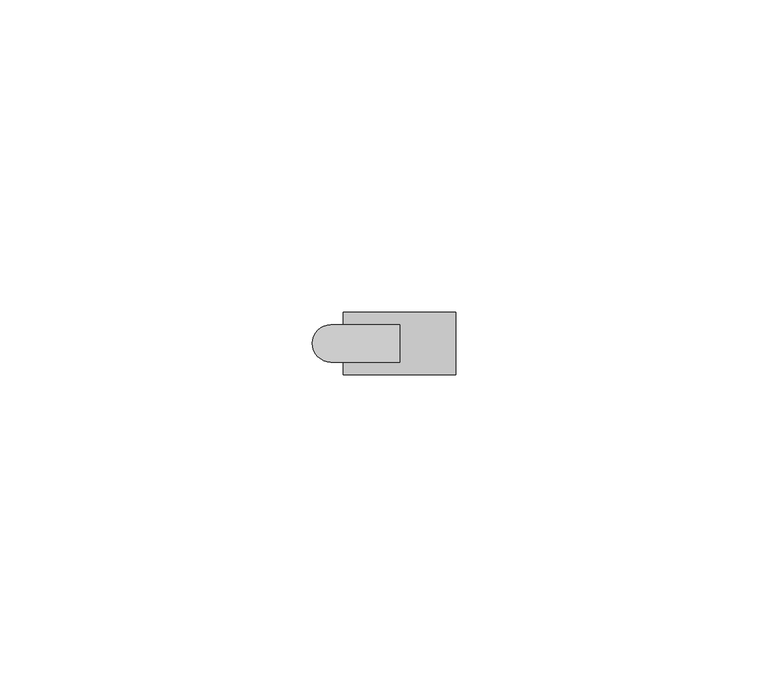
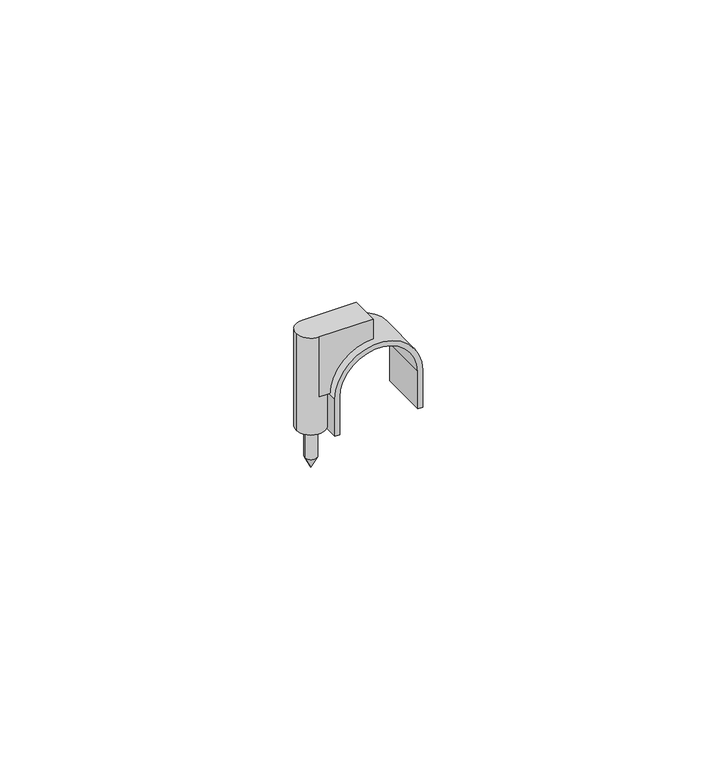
"""IFC4 building model written with IfcOpenShell, lengths in millimetres: cable carrier fitting geometry, КНС_СкобаПластиковаяСГвоздем_DKC : д.15 - 16мм."""

from ifc_helpers import new_model, si_unit, point, frame, frame_2d, origin, place, context, project, spatial, polyline, circle_curve, trimmed, segment, composite_curve, outline, extrude, source, transform, mapped, element, save
from ifc_brep_helpers import plane_surface, cylinder_surface, revolved_surface, advanced_brep


def cable_carrier_fitting_16f909ff(model_context):
    return source(origin(), model_context, "Body", "SolidModel", [
        advanced_brep(
        [(-9.75, 0.0, 0.0), (-12.25, 0.0, 0.0), (-11.0, 0.0, 0.0), (-9.75, 0.0, -6.5), (-12.25, 0.0, -6.5), (-11.0, 0.0, -9.0)],
        [
            (0, 1, circle_curve(frame((-11.0, 0.0, 0.0), z_axis=(0.0, 0.0, 1.0), x_axis=(-1.0, 0.0, 0.0)), 1.25)),
            (1, 2),
            (2, 0),
            (1, 0, circle_curve(frame((-11.0, 0.0, 0.0), z_axis=(0.0, 0.0, 1.0), x_axis=(-1.0, 0.0, 0.0)), 1.25)),
            (3, 4, circle_curve(frame((-11.0, 0.0, -6.5), z_axis=(0.0, 0.0, 1.0), x_axis=(-1.0, 0.0, 0.0)), 1.25)),
            (4, 1),
            (0, 3),
            (4, 3, circle_curve(frame((-11.0, 0.0, -6.5), z_axis=(0.0, 0.0, 1.0), x_axis=(-1.0, 0.0, 0.0)), 1.25)),
            (5, 4),
            (3, 5),
        ],
        [
            plane_surface(frame((-11.0, 0.0, 0.0), z_axis=(0.0, 0.0, 1.0), x_axis=(-1.0, 0.0, 0.0))),
            cylinder_surface(frame((-11.0, 0.0, 32.2919306), z_axis=(0.0, 0.0, -1.0), x_axis=(-1.0, 0.0, 0.0)), 1.25),
            revolved_surface(polyline([(-12.25, 0.0, -6.5), (-11.0, 0.0, -9.0)]), (-11.0, 0.0, 32.2919306), (0.0, 0.0, -1.0)),
        ],
        [
            (0, [[1, 2, 3]]),
            (0, [[4, -3, -2]]),
            (1, [[5, 6, -1, 7]]),
            (1, [[8, -7, -4, -6]]),
            (2, [[9, -5, 10]]),
            (2, [[-10, -8, -9]]),
        ],
    ),
        advanced_brep(
        [(-8.0, -3.0, 8.0), (0.0, -3.0, 16.0), (0.0, -3.0, 21.0), (-11.0, -3.0, 21.0), (-11.0, -3.0, 8.0), (-8.0, 3.0, 8.0), (-11.0, 3.0, 8.0), (-11.0, 3.0, 21.0), (0.0, 3.0, 21.0), (0.0, 3.0, 16.0), (-8.0, 0.0, 8.0), (-14.0, 0.0, 21.0), (-8.0, 0.0, 0.0), (-14.0, 0.0, 0.0), (-11.0, 0.0, 0.0)],
        [
            (0, 1, circle_curve(frame((0.0, -3.0, 8.0), z_axis=(0.0, 1.0, 0.0), x_axis=(1.0, 0.0, 0.0)), 8.0)),
            (1, 2),
            (2, 3),
            (3, 4),
            (4, 0),
            (5, 6),
            (6, 7),
            (7, 8),
            (8, 9),
            (9, 5, circle_curve(frame((0.0, 3.0, 8.0), z_axis=(0.0, -1.0, 0.0), x_axis=(1.0, 0.0, 0.0)), 8.0)),
            (0, 10),
            (10, 5),
            (9, 1),
            (8, 2),
            (7, 11, circle_curve(frame((-11.0, 0.0, 21.0), z_axis=(0.0, 0.0, 1.0), x_axis=(-1.0, 0.0, 0.0)), 3.0)),
            (11, 3, circle_curve(frame((-11.0, 0.0, 21.0), z_axis=(0.0, 0.0, 1.0), x_axis=(-1.0, 0.0, 0.0)), 3.0)),
            (4, 10, circle_curve(frame((-11.0, 0.0, 8.0), z_axis=(0.0, 0.0, 1.0), x_axis=(-1.0, 0.0, 0.0)), 3.0)),
            (10, 6, circle_curve(frame((-11.0, 0.0, 8.0), z_axis=(0.0, 0.0, 1.0), x_axis=(-1.0, 0.0, 0.0)), 3.0)),
            (12, 13, circle_curve(frame((-11.0, 0.0, 0.0), z_axis=(0.0, 0.0, 1.0), x_axis=(-1.0, 0.0, 0.0)), 3.0)),
            (13, 11),
            (10, 12),
            (13, 12, circle_curve(frame((-11.0, 0.0, 0.0), z_axis=(0.0, 0.0, 1.0), x_axis=(-1.0, 0.0, 0.0)), 3.0)),
            (12, 14),
            (14, 13),
        ],
        [
            plane_surface(frame((8.0, -3.0, 8.0), z_axis=(0.0, -1.0, 0.0), x_axis=(0.0, 0.0, -1.0))),
            plane_surface(frame((8.0, 3.0, 8.0), z_axis=(0.0, 1.0, 0.0), x_axis=(0.0, 0.0, 1.0))),
            revolved_surface(polyline([(8.0, 3.0, 8.0), (8.0, -3.0, 8.0)]), (0.0, 3.0, 8.0), (0.0, 1.0, 0.0)),
            plane_surface(frame((0.0, -3.0, 16.0), z_axis=(1.0, 0.0, 0.0), x_axis=(0.0, 1.0, 0.0))),
            plane_surface(frame((0.0, -3.0, 21.0), z_axis=(0.0, 0.0, 1.0), x_axis=(0.0, 1.0, 0.0))),
            plane_surface(frame((-11.0, -3.0, 8.0), z_axis=(0.0, 0.0, -1.0), x_axis=(0.0, 1.0, 0.0))),
            cylinder_surface(frame((-11.0, 0.0, 32.2919306), z_axis=(0.0, 0.0, -1.0), x_axis=(-1.0, 0.0, 0.0)), 3.0),
            plane_surface(frame((-11.0, 0.0, 0.0), z_axis=(0.0, 0.0, -1.0), x_axis=(-1.0, 0.0, 0.0))),
        ],
        [
            (0, [[1, 2, 3, 4, 5]]),
            (1, [[6, 7, 8, 9, 10]]),
            (2, [[-1, 11, 12, -10, 13]]),
            (3, [[-2, -13, -9, 14]]),
            (4, [[-3, -14, -8, 15, 16]]),
            (5, [[-5, 17, -11]]),
            (5, [[-6, -12, 18]]),
            (6, [[19, 20, -15, -7, -18, 21]]),
            (6, [[-20, 22, -21, -17, -4, -16]]),
            (7, [[-19, 23, 24]]),
            (7, [[-22, -24, -23]]),
        ],
    ),
        extrude(outline(composite_curve([segment(polyline([(8.0, 8.0), (0.0, 8.0), (0.0, 9.0), (8.0, 9.0)]), True, "CONTINUOUS"), segment(trimmed(circle_curve(frame_2d((8.0, 0.0)), 9.0), [point((8.0, 9.0))], [point((8.0, -9.0))], False, "CARTESIAN"), True, "CONTINUOUS"), segment(polyline([(8.0, -9.0), (0.0, -9.0), (0.0, -8.0), (8.0, -8.0)]), True, "CONTINUOUS"), segment(trimmed(circle_curve(frame_2d((8.0, 0.0)), 8.0), [point((8.0, -8.0))], [point((8.0, 8.0))], True, "CARTESIAN"), True, "CONTINUOUS")], self_intersect=False)), frame((0.0, -5.0, 0.0), z_axis=(0.0, 1.0, 0.0), x_axis=(0.0, 0.0, 1.0)), (0.0, 0.0, 1.0), 10.0),
    ])


if __name__ == "__main__":
    model = new_model("IFC4")
    model_context = context("Model", 3, world=origin())
    ifc_project = project(units=[si_unit("LENGTHUNIT", "METRE", prefix="MILLI")], contexts=[model_context])
    site = spatial("IfcSite", under=ifc_project)
    building = spatial("IfcBuilding", under=site)
    placement = place(None, origin())
    cable_carrier_fitting_shape = cable_carrier_fitting_16f909ff(model_context)
    element("IfcCableCarrierFitting", 1, ObjectType="КНС_СкобаПластиковаяСГвоздем_DKC : д.15 - 16мм", at=placement, inside=building, context=model_context, shape_type="MappedRepresentation", body=[
        mapped(cable_carrier_fitting_shape, transform((0.0, 0.0, 0.0), x_axis=(1.0, 0.0, 0.0), y_axis=(0.0, 1.0, 0.0), z_axis=(0.0, 0.0, 1.0))),
    ])
    save(model, "model.ifc")
